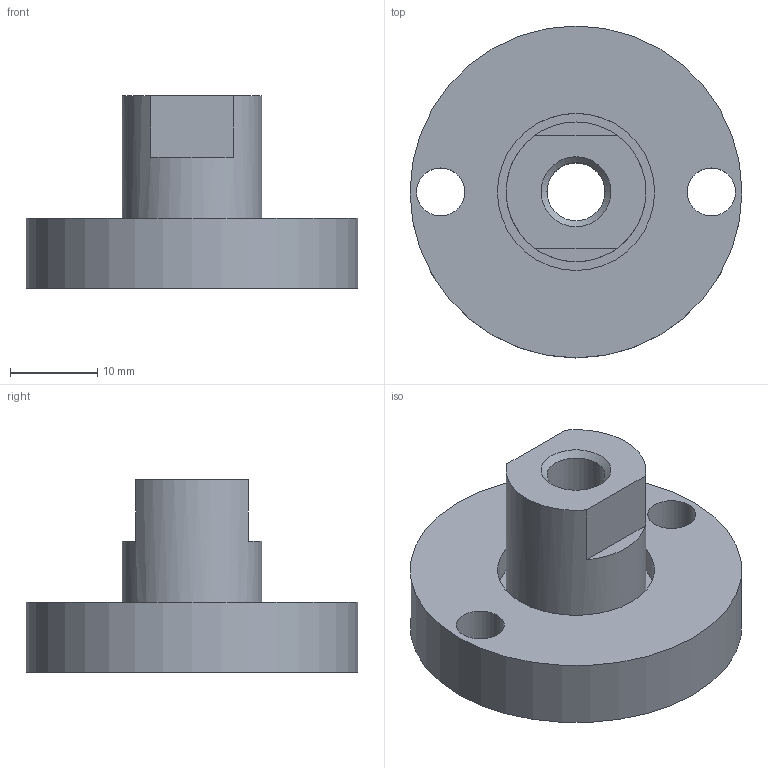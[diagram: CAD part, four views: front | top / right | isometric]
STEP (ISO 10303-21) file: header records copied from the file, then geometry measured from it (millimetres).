
FILE_DESCRIPTION( ( 'STEP AP214' ), '1' );
FILE_NAME( 'U:/Etudes/Top Solid/BIBLIO 3D AVM/TOP/PNEUMATIQUE/GUIDAGES/Accessoires/Accouplements/5133002.step', '2005-05-27T08:27:35', ( ' ' ), ( ' ' ), 'XStep 1.0', ' ', ' ' );
FILE_SCHEMA( ( 'automotive_design' ) );
Length unit declared in the file: metre
Products named in the file (1): 1
Bounding box: 38 x 38 x 22 mm (x, y, z)
Volume: 10439.1 mm3; surface area: 4801.9 mm2
Topology: 1 solids, 1 shells, 16 faces, 34 edges, 22 vertices
Faces by surface type: plane 8, cylinder 7, cone 1
Full cylindrical faces by diameter (mm): 5.5 x2, 6.647 x2, 16 x1, 18 x1, 38 x1
Entity records: 546 total; most frequent: DIRECTION 76, CARTESIAN_POINT 63, ORIENTED_EDGE 50, AXIS2_PLACEMENT_3D 34, EDGE_LOOP 32, EDGE_CURVE 25, FACE_OUTER_BOUND 23, VERTEX_POINT 21
